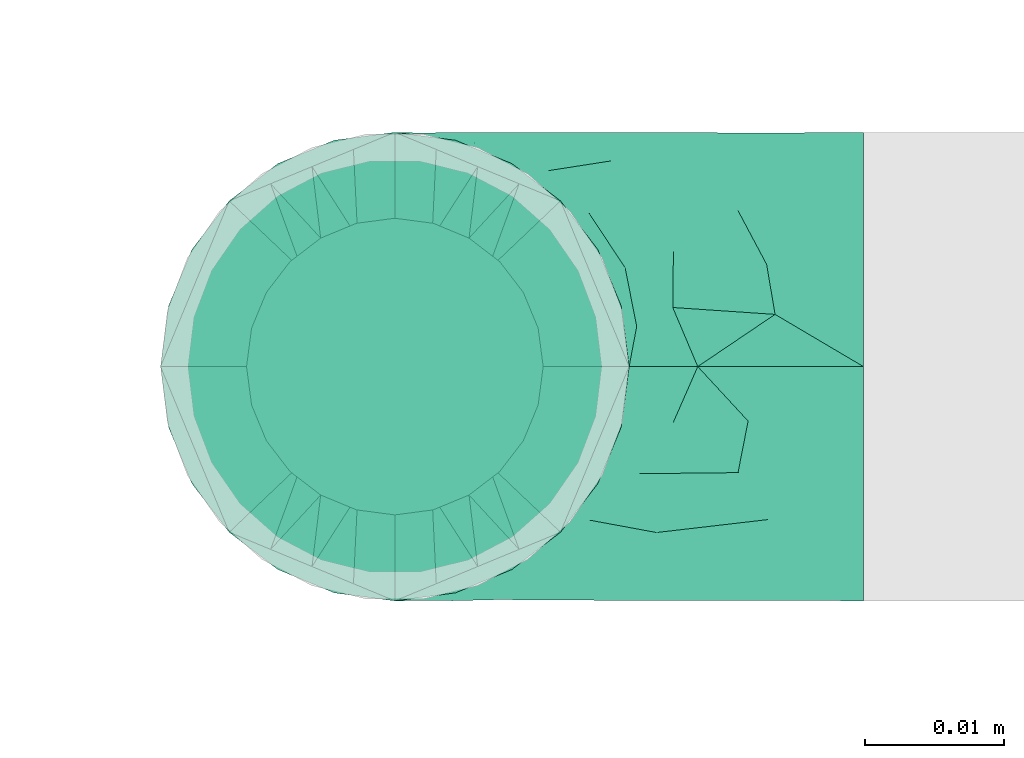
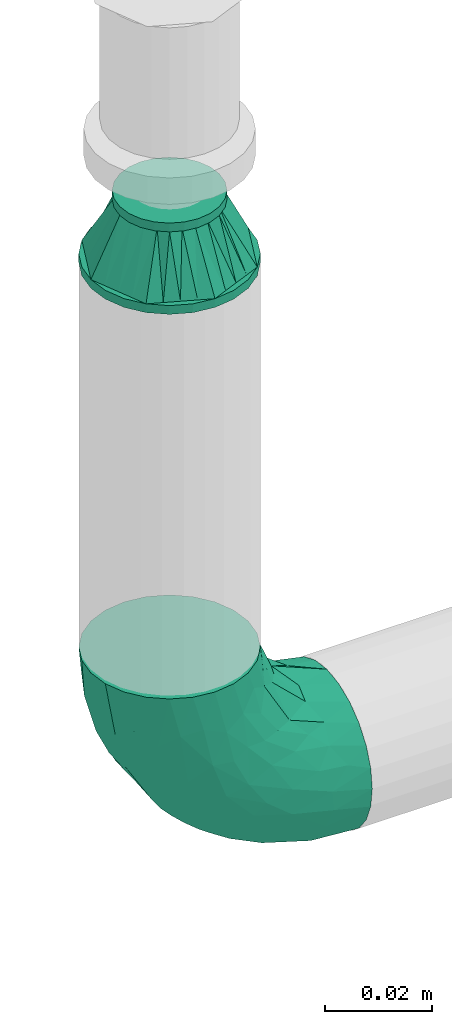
# One storey, part 34 of 157: 2 flow fittings.
"""IFC2X3 building model written with IfcOpenShell, lengths in millimetres."""

from ifc_helpers import new_model, entity, si_unit, converted_unit, derived_unit, direction, frame, origin_with_axes, place, context, subcontext, project, spatial, open_shell, surface_model, source, transform, mapped, type_object, element, save


model = new_model("IFC2X3")

# Units and contexts
model_context = context("Model", 3, precision=0.01, world=frame((0.0, 4.29681676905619e-09, 0.0)), true_north=direction((4.01073788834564e-13, 1.0)))
plan_context = context("Plan", 3, precision=0.01, world=frame((0.0, 4.29681676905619e-09, 0.0)), true_north=direction((4.01073788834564e-13, 1.0)))
body_context = subcontext(model_context, "Body", "Model", "MODEL_VIEW")
ifc_project = project(units=[converted_unit("PLANEANGLEUNIT", "DEGREE", entity("IfcPositiveLengthMeasure", 0.0174532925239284), si_unit("PLANEANGLEUNIT", "RADIAN"), dimensions=[0, 0, 0, 0, 0, 0, 0]), si_unit("AREAUNIT", "SQUARE_METRE"), si_unit("LENGTHUNIT", "METRE", prefix="MILLI"), si_unit("MASSUNIT", "GRAM", prefix="KILO"), si_unit("POWERUNIT", "WATT"), si_unit("PRESSUREUNIT", "PASCAL"), si_unit("FORCEUNIT", "NEWTON", prefix="KILO"), si_unit("ELECTRICCURRENTUNIT", "AMPERE"), si_unit("THERMODYNAMICTEMPERATUREUNIT", "DEGREE_CELSIUS"), si_unit("TIMEUNIT", "SECOND"), si_unit("VOLUMEUNIT", "CUBIC_METRE"), derived_unit("LINEARVELOCITYUNIT", [(si_unit("LENGTHUNIT", "METRE"), 1), (si_unit("TIMEUNIT", "SECOND"), -1)]), derived_unit("VOLUMETRICFLOWRATEUNIT", [(si_unit("VOLUMEUNIT", "CUBIC_METRE"), 1), (si_unit("TIMEUNIT", "SECOND"), -1)]), derived_unit("THERMALTRANSMITTANCEUNIT", [(si_unit("POWERUNIT", "WATT"), 1), (si_unit("THERMODYNAMICTEMPERATUREUNIT", "KELVIN"), -1), (si_unit("AREAUNIT", "SQUARE_METRE"), -1)])], contexts=[model_context, plan_context])

# Site, building, storey
site_placement = place(None, frame((0.0, -4.29681676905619e-09, 0.0), z_axis=(0.0, 0.0, 1.0), x_axis=(1.0, 0.0, 0.0)))
site = spatial("IfcSite", under=ifc_project, at=site_placement, CompositionType="ELEMENT")
building_placement = place(site_placement, frame((0.0, 4.29681676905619e-09, 0.0), z_axis=(0.0, 0.0, 1.0), x_axis=(1.0, 0.0, 0.0)))
building = spatial("IfcBuilding", under=site, at=building_placement, Name="mc-building", CompositionType="ELEMENT")
storey_placement = place(building_placement, frame((0.0, 0.0, 204000.0), z_axis=(0.0, 0.0, 1.0), x_axis=(1.0, 0.0, 0.0)))
storey = spatial("IfcBuildingStorey", under=building, at=storey_placement, Name="Nivå D", CompositionType="ELEMENT", Elevation=204000.0)

# Flow fittings
pipe_fitting_type_1 = type_object("IfcPipeFittingType", Name="magi_pipe_fe_reducer_centric_short_NOR", PredefinedType="TRANSITION")
shared_shape_1 = source(origin_with_axes(), body_context, "Body", "SurfaceModel", [
    surface_model("IfcShellBasedSurfaceModel", [(14.4, 5.35, -9.26647), (14.4, 0.0, -10.7), (14.4, 2.76936, -10.33541), (14.4, 10.33541, -2.76936), (14.4, 7.56604, -7.56604), (14.4, -10.33541, -2.76936), (14.4, 9.26647, -5.35), (14.4, 0.0, 10.7), (14.4, -5.35, -9.26647), (14.4, -2.76936, -10.33541), (14.4, -7.56604, -7.56604), (14.4, -9.26647, -5.35), (14.4, 10.7, 0.0), (14.4, 10.33541, 2.76936), (14.4, 9.26647, 5.35), (14.4, 7.56604, 7.56604), (14.4, 2.76936, 10.33541), (14.4, 5.35, 9.26647), (14.4, -10.33541, 2.76936), (14.4, -7.56604, 7.56604), (14.4, -9.26647, 5.35), (14.4, -10.7, 0.0), (14.4, -2.76936, 10.33541), (14.4, -5.35, 9.26647), (12.4, 2.76936, 10.33541), (12.4, -10.33541, -2.76936), (12.4, 0.0, 10.7), (12.4, 5.35, 9.26647), (12.4, 7.56604, 7.56604), (12.4, 9.26647, 5.35), (12.4, 10.33541, 2.76936), (12.4, -10.33541, 2.76936), (12.4, -2.76936, 10.33541), (12.4, -7.56604, 7.56604), (12.4, -5.35, 9.26647), (12.4, -9.26647, 5.35), (12.4, -10.7, 0.0), (12.4, 10.33541, -2.76936), (12.4, 5.35, -9.26647), (12.4, 9.26647, -5.35), (12.4, 7.56604, -7.56604), (12.4, 2.76936, -10.33541), (12.4, -9.26647, -5.35), (12.4, -5.35, -9.26647), (12.4, -7.56604, -7.56604), (12.4, 0.0, -10.7), (12.4, -2.76936, -10.33541), (12.4, 10.7, 0.0), (-2.0, 11.9501, 11.9501), (-2.0, 0.0, 16.9), (-2.0, 4.37404, 16.32415), (-2.0, 8.45, 14.63583), (-2.0, 14.63583, 8.45), (-2.0, 16.32415, 4.37404), (-2.0, -16.32415, 4.37404), (-2.0, -8.45, 14.63583), (-2.0, -14.63583, 8.45), (-2.0, -11.9501, 11.9501), (-2.0, -4.37404, 16.32415), (-2.0, -16.32415, -4.37404), (-2.0, -16.9, 0.0), (-2.0, -8.45, -14.63583), (-2.0, 16.32415, -4.37404), (-2.0, 11.9501, -11.9501), (-2.0, 14.63583, -8.45), (-2.0, 8.45, -14.63583), (-2.0, 4.37404, -16.32415), (-2.0, 0.0, -16.9), (-2.0, -11.9501, -11.9501), (-2.0, -14.63583, -8.45), (-2.0, -4.37404, -16.32415), (-2.0, 16.9, 0.0), (0.0, 4.37404, -16.32415), (0.0, 8.45, -14.63583), (0.0, 11.9501, -11.9501), (0.0, 0.0, -16.9), (0.0, 16.32415, -4.37404), (0.0, 16.32415, 4.37404), (0.0, 14.63583, -8.45), (0.0, -8.45, -14.63583), (0.0, -4.37404, -16.32415), (0.0, -11.9501, -11.9501), (0.0, -16.32415, -4.37404), (0.0, -14.63583, -8.45), (0.0, -16.32415, 4.37404), (0.0, 16.9, 0.0), (0.0, 14.63583, 8.45), (0.0, 11.9501, 11.9501), (0.0, 4.37404, 16.32415), (0.0, 8.45, 14.63583), (0.0, 0.0, 16.9), (0.0, -14.63583, 8.45), (0.0, -16.9, 0.0), (0.0, -8.45, 14.63583), (0.0, -11.9501, 11.9501), (0.0, -4.37404, 16.32415), (12.4, 9.3625, -2.31662), (0.0, 14.42505, -5.97505), (0.0, 15.66253, -2.98753), (12.4, -6.6875, -6.94985), (0.0, -13.18758, -8.96258), (0.0, 2.98753, -15.66253), (12.4, 0.0, -9.26647), (12.4, 6.6875, -6.94985), (0.0, 8.96258, -13.18758), (12.4, -9.3625, -2.31662), (0.0, -15.66253, -2.98753), (0.0, -14.42505, -5.97505), (0.0, 5.97505, -14.42505), (0.0, -2.98753, -15.66253), (0.0, -8.96258, -13.18758), (0.0, 13.18758, -8.96258), (12.4, 8.025, -4.63324), (12.4, -2.675, -9.26647), (12.4, 2.675, -9.26647), (0.0, -5.97505, -14.42505), (12.4, -8.025, -4.63324), (12.4, -9.3625, 2.31662), (0.0, -14.42505, 5.97505), (0.0, -15.66253, 2.98753), (12.4, 6.6875, 6.94985), (0.0, 13.18758, 8.96258), (0.0, -2.98753, 15.66253), (12.4, 0.0, 9.26647), (12.4, -6.6875, 6.94985), (0.0, -8.96258, 13.18758), (12.4, 9.3625, 2.31662), (0.0, 15.66253, 2.98753), (0.0, 14.42505, 5.97505), (0.0, -5.97505, 14.42505), (0.0, 2.98753, 15.66253), (0.0, 8.96258, 13.18758), (0.0, -13.18758, 8.96258), (12.4, -8.025, 4.63324), (12.4, 2.675, 9.26647), (12.4, -2.675, 9.26647), (0.0, 5.97505, 14.42505), (12.4, 8.025, 4.63324)], [open_shell([[[0, 1, 2]], [[3, 0, 4]], [[5, 0, 3]], [[3, 4, 6]], [[7, 5, 3]], [[1, 8, 9]], [[1, 0, 8]], [[10, 5, 11]], [[5, 10, 8]], [[0, 5, 8]], [[3, 12, 13]], [[13, 14, 15]], [[13, 15, 16]], [[7, 3, 16]], [[16, 15, 17]], [[7, 18, 5]], [[18, 19, 20]], [[21, 5, 18]], [[19, 22, 23]], [[22, 19, 18]], [[7, 22, 18]], [[13, 16, 3]], [[24, 25, 26]], [[27, 25, 24]], [[28, 29, 30]], [[28, 25, 27]], [[31, 26, 25]], [[32, 33, 34]], [[33, 32, 31]], [[33, 31, 35]], [[32, 26, 31]], [[31, 25, 36]], [[30, 37, 28]], [[25, 28, 37]], [[38, 37, 39]], [[37, 38, 25]], [[38, 39, 40]], [[41, 25, 38]], [[42, 43, 44]], [[43, 42, 25]], [[43, 45, 46]], [[43, 25, 41]], [[41, 45, 43]], [[37, 30, 47]], [[25, 5, 36]], [[42, 11, 25]], [[8, 44, 43]], [[42, 44, 10]], [[9, 43, 46]], [[25, 11, 5]], [[5, 21, 36]], [[9, 8, 43]], [[10, 44, 8]], [[10, 11, 42]], [[1, 9, 46]], [[46, 45, 1]], [[41, 2, 45]], [[38, 0, 41]], [[6, 40, 39]], [[38, 40, 4]], [[3, 39, 37]], [[38, 4, 0]], [[0, 2, 41]], [[12, 3, 37]], [[6, 39, 3]], [[6, 4, 40]], [[47, 12, 37]], [[45, 2, 1]], [[30, 13, 47]], [[29, 14, 30]], [[17, 28, 27]], [[29, 28, 15]], [[16, 27, 24]], [[30, 14, 13]], [[13, 12, 47]], [[16, 17, 27]], [[15, 28, 17]], [[15, 14, 29]], [[7, 16, 24]], [[24, 26, 7]], [[32, 22, 26]], [[34, 23, 32]], [[20, 33, 35]], [[34, 33, 19]], [[18, 35, 31]], [[34, 19, 23]], [[23, 22, 32]], [[21, 18, 31]], [[20, 35, 18]], [[20, 19, 33]], [[36, 21, 31]], [[26, 22, 7]], [[48, 49, 50]], [[48, 50, 51]], [[48, 52, 53]], [[48, 53, 49]], [[49, 53, 54]], [[55, 56, 57]], [[55, 58, 49]], [[56, 55, 49]], [[49, 54, 56]], [[54, 59, 60]], [[54, 53, 61]], [[53, 62, 63]], [[63, 62, 64]], [[63, 65, 66]], [[61, 53, 63]], [[67, 63, 66]], [[59, 68, 69]], [[68, 59, 61]], [[61, 67, 70]], [[59, 54, 61]], [[63, 67, 61]], [[53, 71, 62]], [[72, 73, 74]], [[75, 72, 74]], [[74, 76, 77]], [[76, 74, 78]], [[74, 77, 79]], [[75, 79, 80]], [[75, 74, 79]], [[81, 82, 83]], [[82, 81, 79]], [[79, 84, 82]], [[77, 76, 85]], [[77, 86, 87]], [[77, 87, 88]], [[88, 84, 79]], [[88, 87, 89]], [[84, 88, 90]], [[90, 91, 84]], [[92, 82, 84]], [[91, 93, 94]], [[91, 90, 93]], [[93, 90, 95]], [[79, 77, 88]], [[59, 82, 60]], [[69, 83, 59]], [[79, 68, 61]], [[69, 68, 81]], [[80, 61, 70]], [[59, 83, 82]], [[82, 92, 60]], [[80, 79, 61]], [[81, 68, 79]], [[81, 83, 69]], [[75, 80, 70]], [[70, 67, 75]], [[66, 72, 67]], [[65, 73, 66]], [[78, 63, 64]], [[65, 63, 74]], [[76, 64, 62]], [[65, 74, 73]], [[73, 72, 66]], [[85, 76, 62]], [[78, 64, 76]], [[78, 74, 63]], [[71, 85, 62]], [[67, 72, 75]], [[53, 77, 71]], [[52, 86, 53]], [[89, 48, 51]], [[52, 48, 87]], [[88, 51, 50]], [[53, 86, 77]], [[77, 85, 71]], [[88, 89, 51]], [[87, 48, 89]], [[87, 86, 52]], [[90, 88, 50]], [[50, 49, 90]], [[58, 95, 49]], [[55, 93, 58]], [[91, 57, 56]], [[55, 57, 94]], [[84, 56, 54]], [[55, 94, 93]], [[93, 95, 58]], [[92, 84, 54]], [[91, 56, 84]], [[91, 94, 57]], [[60, 92, 54]], [[49, 95, 90]], [[27, 34, 47]], [[47, 34, 43]], [[43, 38, 47]], [[43, 34, 36]], [[90, 87, 94]], [[92, 94, 87]], [[87, 74, 92]], [[75, 92, 74]], [[81, 92, 75]], [[74, 87, 85]], [[96, 97, 98]], [[81, 99, 100]], [[101, 102, 75]], [[98, 85, 47]], [[74, 103, 104]], [[104, 103, 38]], [[105, 106, 107]], [[38, 108, 104]], [[102, 109, 75]], [[110, 99, 81]], [[47, 96, 98]], [[103, 111, 112]], [[109, 102, 113]], [[36, 92, 106]], [[102, 101, 114]], [[110, 115, 43]], [[96, 112, 97]], [[107, 116, 105]], [[36, 106, 105]], [[113, 115, 109]], [[43, 115, 113]], [[116, 107, 100]], [[108, 38, 114]], [[111, 103, 74]], [[111, 97, 112]], [[99, 110, 43]], [[116, 100, 99]], [[101, 108, 114]], [[117, 118, 119]], [[87, 120, 121]], [[122, 123, 90]], [[119, 92, 36]], [[94, 124, 125]], [[125, 124, 34]], [[126, 127, 128]], [[34, 129, 125]], [[123, 130, 90]], [[131, 120, 87]], [[36, 117, 119]], [[124, 132, 133]], [[130, 123, 134]], [[47, 85, 127]], [[123, 122, 135]], [[131, 136, 27]], [[117, 133, 118]], [[128, 137, 126]], [[47, 127, 126]], [[134, 136, 130]], [[27, 136, 134]], [[137, 128, 121]], [[129, 34, 135]], [[132, 124, 94]], [[132, 118, 133]], [[120, 131, 27]], [[137, 121, 120]], [[122, 129, 135]]])]),
])
flow_fitting_1_placement = place(storey_placement, frame((526840.89876, 407221.65, 3003.14799999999), z_axis=(0.0, -1.0, 0.0), x_axis=(0.0, 0.0, 1.0)))
element("IfcFlowFitting", 1, at=flow_fitting_1_placement, inside=storey, type_object=pipe_fitting_type_1, Name="magi_pipe_fe_reducer_centric_short_NOR", context=body_context, shape_type="MappedRepresentation", body=[
    mapped(shared_shape_1, transform((0.0, 0.0, 0.0), scale=1.0)),
])
pipe_fitting_type_2 = type_object("IfcPipeFittingType", Name="magi_pipe_fe_elbow_short_001", PredefinedType="BEND")
shared_shape_2 = source(origin_with_axes(), body_context, "Body", "SurfaceModel", [
    surface_model("IfcShellBasedSurfaceModel", [(-33.8, 8.45, -14.63583), (-33.8, 4.37404, -16.32415), (-33.8, 11.9501, -11.9501), (-33.8, -11.9501, -11.9501), (-33.8, -14.63583, -8.45), (-33.8, -8.45, -14.63583), (-33.8, 0.0, -16.9), (-33.8, -4.37404, -16.32415), (-33.8, -4.37404, 16.32415), (-33.8, 0.0, 16.9), (-33.8, -8.45, 14.63583), (-33.8, 16.32415, -4.37404), (-33.8, 14.63583, -8.45), (-33.8, -16.32415, -4.37404), (-33.8, -16.9, 0.0), (-33.8, -16.32415, 4.37404), (-33.8, 11.9501, 11.9501), (-33.8, 14.63583, 8.45), (-33.8, 16.32415, 4.37404), (-33.8, 4.37404, 16.32415), (-33.8, 8.45, 14.63583), (-33.8, -14.63583, 8.45), (-33.8, -11.9501, 11.9501), (-33.8, 16.9, 0.0), (-11.9501, 33.8, -11.9501), (0.0, 33.8, -16.9), (-4.37404, 33.8, -16.32415), (-8.45, 33.8, -14.63583), (-14.63583, 33.8, -8.45), (-16.32415, 33.8, -4.37404), (14.63583, 33.8, -8.45), (8.45, 33.8, 14.63583), (16.32415, 33.8, -4.37404), (8.45, 33.8, -14.63583), (11.9501, 33.8, -11.9501), (4.37404, 33.8, -16.32415), (16.32415, 33.8, 4.37404), (16.9, 33.8, 0.0), (-11.9501, 33.8, 11.9501), (-16.32415, 33.8, 4.37404), (-14.63583, 33.8, 8.45), (-8.45, 33.8, 14.63583), (-4.37404, 33.8, 16.32415), (11.9501, 33.8, 11.9501), (14.63583, 33.8, 8.45), (0.0, 33.8, 16.9), (4.37404, 33.8, 16.32415), (-16.9, 33.8, 0.0), (-24.79389, -13.12945, 9.48721), (-22.19287, -9.75018, 12.59315), (-24.09897, -14.97035, 0.0), (-14.93934, -10.76256, 8.5297), (-22.46095, -14.75051, 5.27077), (14.75051, 22.46094, 5.27077), (11.9251, 13.23888, 4.33236), (13.04069, 14.39795, 0.0), (7.71387, 13.68847, 11.55891), (9.75018, 22.19287, 12.59315), (4.10169, 13.0571, 14.04018), (-24.84007, -6.39063, 15.2048), (-25.81779, -2.23879, 16.61097), (-23.66549, 2.59054, 16.87119), (-26.50418, 14.06512, 11.08152), (-24.21253, 17.66365, 7.72657), (-29.58514, 15.86957, 7.00283), (-6.17382, -7.5455, 0.0), (-13.23888, -11.9251, 4.33236), (-14.39795, -13.04069, 0.0), (-17.81434, 18.87373, 11.97104), (-6.30846, 29.15138, 15.82987), (-2.31622, 25.28002, 16.85849), (-29.23923, 10.23435, 13.77053), (-1.45439, -2.85688, 7.61475), (-0.28326, 0.34872, 10.09509), (-5.74484, -4.04709, 10.4122), (-4.41137, 11.31918, 16.59407), (-8.39727, 3.10034, 15.7812), (-1.72649, 9.1306, 15.53089), (-17.39909, 24.75344, 7.64977), (-26.19233, 20.0512, 0.0), (-28.14518, 17.29657, 4.25857), (-26.05147, 6.6281, 15.96447), (-5.87354, 16.61944, 16.86968), (-12.51807, 12.51807, 16.48937), (-10.06312, 7.38516, 16.81295), (-3.01882, 3.01882, 13.81718), (-13.0571, -4.10169, 14.04018), (-16.82553, -0.15166, 16.38038), (10.76256, 14.93934, 8.5297), (13.12945, 24.79389, 9.48721), (6.39063, 24.84007, 15.2048), (2.23879, 25.81779, 16.61097), (-13.68847, -7.71387, 11.55891), (14.97035, 24.09897, 0.0), (-7.30894, 22.89991, 16.09489), (-10.67958, 26.17414, 14.008), (-12.78295, 18.26924, 15.06066), (-13.88562, 22.45231, 12.93244), (-18.04944, 15.16501, 14.04434), (-23.11658, 20.08178, 4.02986), (-21.84989, 21.84989, 0.0), (-18.55817, 25.48277, 3.93065), (-13.95142, 26.94732, 11.03289), (-18.57098, 7.23906, 16.59756), (-16.58335, 4.14122, 16.89279), (-17.96666, 11.46709, 15.63151), (-9.84453, 17.54304, 16.18938), (0.15166, 16.82553, 16.38038), (-23.27207, 11.47201, 14.23154), (3.84842, 5.86994, 10.70473), (-8.0212, -7.54413, 7.93275), (1.00345, -2.19508, 4.57414), (5.13203, 3.01004, 5.90201), (5.24161, 1.7543, 2.53265), (8.70457, 7.04947, 3.99182), (-20.0512, 26.19233, 0.0), (8.4852, 8.76699, 7.09296), (-4.55488, -6.72064, 4.90681), (2.05031, -2.05031, 0.0), (7.5455, 6.17382, 0.0), (-26.75399, 2.1369, -16.845), (-14.61995, 24.73803, -11.27736), (-28.45274, -13.45335, -9.81895), (-26.00469, 6.63555, -15.96645), (-23.06726, 20.04573, -4.26202), (-13.80647, -4.26506, -14.17873), (-14.67501, -0.21081, -16.07388), (-6.7902, -0.2828, -13.8478), (-24.53586, 11.08096, -14.13417), (-26.72048, 14.00837, -11.05776), (10.0967, 24.44989, -12.75976), (5.83237, 21.40218, -15.03047), (6.66249, 28.54238, -15.38093), (-20.38182, 15.48705, -12.74596), (12.53268, 21.23441, -9.15363), (12.54494, 15.67504, -5.54878), (9.7522, 12.89279, -8.66343), (-15.65186, 19.64213, -13.01327), (-12.03528, 20.66498, -14.67665), (-15.61907, 15.61906, -14.83879), (-25.56551, -15.26206, 0.0), (-24.65452, -15.12934, -5.50955), (13.45335, 28.45274, -9.81895), (15.12934, 24.65452, -5.50955), (-7.35442, -8.31014, -5.65563), (-15.67504, -12.54494, -5.54878), (-24.44989, -10.0967, -12.75976), (0.16522, 0.41303, -9.71728), (-5.70658, -5.33066, -8.89288), (-5.13869, -2.37198, -11.53565), (-21.23441, -12.53268, -9.15363), (0.71146, 7.93863, -14.09382), (0.21081, 14.67501, -16.07388), (3.49291, 14.42772, -14.76381), (-24.89911, -2.13088, -16.591), (-28.54238, -6.66249, -15.38093), (-18.44386, -7.71663, -13.26957), (2.13088, 24.89911, -16.591), (-28.64342, 17.44413, -2.89318), (1.70017, -1.28722, -5.09504), (-16.57067, 26.81947, -7.36596), (-17.69055, 27.4263, -3.76405), (-12.89279, -9.7522, -8.66343), (-5.96611, 5.96611, -15.95814), (-20.53709, 20.09345, -8.28985), (-2.1369, 26.75399, -16.845), (-6.89872, 24.58781, -16.02578), (-10.60739, 26.53157, -13.98044), (-21.40218, -5.83237, -15.03047), (2.93192, 5.89627, -11.55917), (6.89393, 12.61842, -11.82233), (5.58056, 5.95325, -8.79455), (-3.99512, 18.61798, -16.89635), (8.31014, 7.35442, -5.65563), (-9.1383, 9.86148, -16.89041), (-9.99983, 16.02119, -16.39699), (-16.68576, 9.78031, -16.34199), (-27.01915, 16.61158, -7.12979), (15.26206, 25.56551, 0.0), (-18.61798, 3.99512, -16.89635), (-19.37495, 27.82495, 0.0), (-12.61842, -6.89393, -11.82233), (-18.84705, 19.14018, -10.96545)], [open_shell([[[0, 1, 2]], [[3, 4, 5]], [[6, 7, 5]], [[8, 9, 10]], [[1, 6, 2]], [[11, 12, 2]], [[4, 2, 6]], [[2, 13, 10]], [[5, 4, 6]], [[2, 4, 13]], [[14, 15, 13]], [[11, 2, 16]], [[11, 17, 18]], [[11, 16, 17]], [[19, 20, 16]], [[16, 2, 10]], [[19, 16, 10]], [[21, 22, 15]], [[22, 13, 15]], [[22, 10, 13]], [[10, 9, 19]], [[11, 18, 23]], [[24, 25, 26]], [[24, 26, 27]], [[24, 28, 29]], [[25, 24, 30]], [[31, 32, 24]], [[33, 30, 34]], [[33, 35, 25]], [[25, 30, 33]], [[32, 30, 24]], [[32, 36, 37]], [[38, 24, 29]], [[39, 40, 29]], [[40, 38, 29]], [[38, 41, 42]], [[38, 31, 24]], [[31, 38, 42]], [[36, 43, 44]], [[36, 32, 43]], [[31, 45, 46]], [[32, 31, 43]], [[42, 45, 31]], [[39, 29, 47]], [[22, 48, 49]], [[15, 14, 50]], [[51, 48, 52]], [[53, 54, 55]], [[48, 22, 21]], [[15, 52, 21]], [[56, 57, 58]], [[49, 10, 22]], [[49, 59, 10]], [[9, 60, 61]], [[62, 63, 64]], [[65, 66, 67]], [[57, 43, 31]], [[62, 68, 63]], [[42, 69, 70]], [[20, 71, 16]], [[8, 60, 9]], [[72, 73, 74]], [[75, 76, 77]], [[16, 62, 17]], [[40, 39, 78]], [[79, 23, 80]], [[64, 18, 17]], [[9, 61, 19]], [[19, 81, 20]], [[82, 83, 84]], [[74, 85, 86]], [[59, 86, 87]], [[88, 89, 57]], [[90, 31, 46]], [[44, 53, 36]], [[46, 45, 91]], [[54, 53, 88]], [[44, 89, 53]], [[92, 86, 49]], [[89, 44, 43]], [[10, 59, 8]], [[53, 55, 93]], [[93, 36, 53]], [[66, 52, 67]], [[94, 82, 70]], [[95, 96, 94]], [[97, 98, 96]], [[79, 99, 100]], [[41, 38, 95]], [[101, 100, 99]], [[68, 78, 63]], [[42, 41, 69]], [[23, 18, 80]], [[95, 94, 69]], [[78, 101, 99]], [[38, 102, 95]], [[70, 45, 42]], [[97, 95, 102]], [[15, 50, 52]], [[90, 57, 31]], [[57, 90, 58]], [[81, 19, 61]], [[103, 104, 84]], [[105, 81, 103]], [[38, 40, 102]], [[106, 96, 83]], [[94, 106, 82]], [[91, 70, 107]], [[71, 62, 16]], [[62, 108, 98]], [[86, 59, 49]], [[67, 52, 50]], [[60, 59, 87]], [[92, 49, 51]], [[86, 85, 76]], [[91, 90, 46]], [[37, 36, 93]], [[107, 77, 58]], [[107, 58, 90]], [[58, 85, 109]], [[110, 74, 92]], [[72, 74, 110]], [[66, 51, 52]], [[72, 111, 112]], [[113, 114, 112]], [[56, 88, 57]], [[52, 48, 21]], [[49, 48, 51]], [[57, 89, 43]], [[53, 89, 88]], [[103, 81, 61]], [[71, 81, 108]], [[18, 64, 80]], [[63, 78, 99]], [[47, 115, 101]], [[101, 115, 100]], [[40, 78, 102]], [[68, 102, 78]], [[97, 96, 95]], [[105, 98, 108]], [[103, 84, 83]], [[107, 70, 82]], [[76, 84, 87]], [[82, 84, 75]], [[70, 91, 45]], [[90, 91, 107]], [[59, 60, 8]], [[61, 60, 87]], [[73, 85, 74]], [[109, 112, 116]], [[103, 61, 104]], [[105, 103, 83]], [[96, 105, 83]], [[81, 105, 108]], [[96, 98, 105]], [[62, 98, 68]], [[61, 87, 104]], [[87, 84, 104]], [[86, 76, 87]], [[77, 76, 85]], [[58, 77, 85]], [[75, 77, 107]], [[82, 75, 107]], [[76, 75, 84]], [[81, 71, 20]], [[62, 71, 108]], [[95, 69, 41]], [[70, 69, 94]], [[62, 64, 17]], [[80, 63, 99]], [[63, 80, 64]], [[80, 99, 79]], [[66, 65, 117]], [[110, 66, 117]], [[112, 114, 116]], [[118, 117, 65]], [[110, 92, 51]], [[112, 111, 113]], [[119, 55, 54]], [[74, 86, 92]], [[58, 109, 56]], [[116, 56, 109]], [[66, 110, 51]], [[72, 110, 117]], [[111, 72, 117]], [[73, 112, 109]], [[117, 118, 111]], [[113, 111, 118]], [[118, 119, 113]], [[114, 119, 54]], [[119, 114, 113]], [[116, 54, 88]], [[54, 116, 114]], [[116, 88, 56]], [[112, 73, 72]], [[85, 73, 109]], [[78, 39, 101]], [[47, 101, 39]], [[102, 68, 97]], [[97, 68, 98]], [[82, 106, 83]], [[94, 96, 106]], [[1, 120, 6]], [[28, 24, 121]], [[3, 122, 4]], [[0, 123, 1]], [[100, 124, 79]], [[125, 126, 127]], [[128, 2, 129]], [[130, 131, 132]], [[128, 129, 133]], [[134, 135, 136]], [[137, 138, 139]], [[128, 0, 2]], [[67, 140, 141]], [[134, 142, 143]], [[141, 13, 4]], [[144, 65, 145]], [[146, 3, 5]], [[147, 148, 149]], [[145, 141, 150]], [[151, 152, 153]], [[154, 7, 6]], [[5, 155, 146]], [[150, 146, 156]], [[155, 5, 7]], [[143, 135, 134]], [[35, 157, 25]], [[23, 79, 158]], [[148, 159, 144]], [[160, 161, 29]], [[145, 162, 144]], [[163, 152, 151]], [[29, 28, 160]], [[121, 164, 160]], [[33, 34, 130]], [[25, 165, 26]], [[26, 165, 166]], [[142, 34, 30]], [[24, 27, 167]], [[124, 161, 164]], [[157, 35, 132]], [[155, 154, 168]], [[123, 0, 128]], [[169, 170, 171]], [[172, 157, 152]], [[26, 166, 27]], [[132, 35, 33]], [[142, 130, 34]], [[168, 154, 126]], [[136, 135, 173]], [[133, 137, 139]], [[2, 12, 129]], [[170, 131, 130]], [[30, 32, 143]], [[172, 174, 175]], [[176, 123, 128]], [[158, 177, 11]], [[135, 55, 119]], [[167, 27, 166]], [[175, 166, 172]], [[137, 167, 138]], [[122, 141, 4]], [[140, 14, 13]], [[32, 37, 178]], [[170, 130, 134]], [[152, 157, 131]], [[165, 157, 172]], [[153, 170, 151]], [[152, 163, 174]], [[168, 125, 156]], [[122, 146, 150]], [[120, 154, 6]], [[179, 174, 126]], [[179, 126, 154]], [[126, 163, 127]], [[162, 145, 150]], [[140, 13, 141]], [[32, 178, 143]], [[55, 143, 178]], [[177, 129, 12]], [[128, 133, 139]], [[176, 128, 139]], [[120, 123, 179]], [[121, 160, 28]], [[161, 100, 180]], [[166, 175, 138]], [[121, 24, 167]], [[161, 47, 29]], [[79, 124, 158]], [[124, 164, 177]], [[161, 124, 100]], [[136, 171, 170]], [[127, 163, 151]], [[147, 171, 159]], [[148, 144, 162]], [[127, 151, 169]], [[127, 181, 125]], [[129, 177, 164]], [[12, 11, 177]], [[159, 65, 144]], [[67, 141, 145]], [[143, 55, 135]], [[135, 119, 173]], [[123, 120, 1]], [[154, 120, 179]], [[157, 165, 25]], [[166, 165, 172]], [[172, 152, 174]], [[176, 139, 175]], [[126, 174, 163]], [[176, 174, 179]], [[174, 176, 175]], [[123, 176, 179]], [[150, 181, 162]], [[127, 149, 181]], [[181, 148, 162]], [[159, 148, 147]], [[171, 136, 173]], [[170, 134, 136]], [[159, 171, 173]], [[171, 147, 169]], [[169, 147, 149]], [[151, 170, 169]], [[164, 182, 129]], [[182, 121, 137]], [[181, 149, 148]], [[169, 149, 127]], [[182, 137, 133]], [[167, 137, 121]], [[166, 138, 167]], [[175, 139, 138]], [[129, 182, 133]], [[121, 182, 164]], [[161, 160, 164]], [[47, 161, 180]], [[177, 158, 124]], [[23, 158, 11]], [[130, 132, 33]], [[157, 132, 131]], [[143, 142, 30]], [[130, 142, 134]], [[154, 155, 7]], [[146, 155, 168]], [[146, 122, 3]], [[141, 122, 150]], [[152, 131, 153]], [[159, 119, 118]], [[67, 145, 65]], [[170, 153, 131]], [[119, 159, 173]], [[159, 118, 65]], [[156, 125, 181]], [[126, 125, 168]], [[150, 156, 181]], [[168, 156, 146]]])]),
])
flow_fitting_2_placement = place(storey_placement, frame((526840.89876, 407221.65002, 2880.0), z_axis=(0.0, -1.0, 0.0), x_axis=(0.0, 0.0, -1.0)))
element("IfcFlowFitting", 2, at=flow_fitting_2_placement, inside=storey, type_object=pipe_fitting_type_2, Name="magi_pipe_fe_elbow_short_001", context=body_context, shape_type="MappedRepresentation", body=[
    mapped(shared_shape_2, transform((0.0, 0.0, 0.0), scale=1.0)),
])

save(model, "model.ifc")
